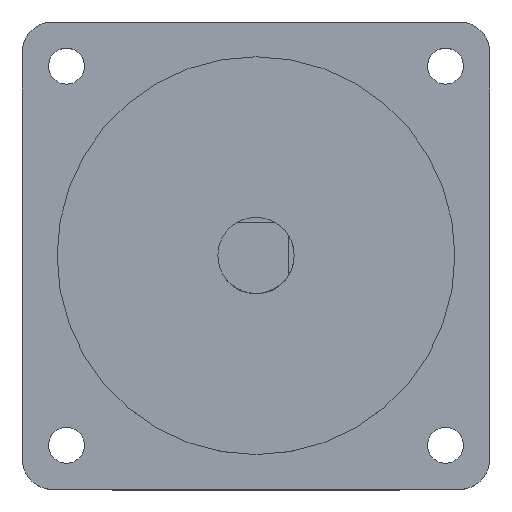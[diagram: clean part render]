
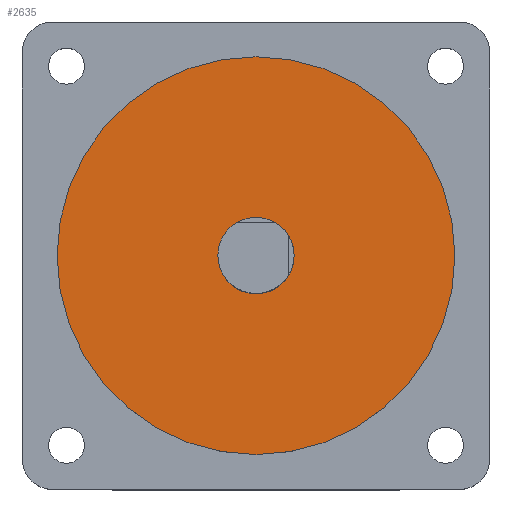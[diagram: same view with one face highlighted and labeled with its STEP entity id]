
A CAD part, top view. The second image highlights one B-rep face of the part: STEP entity #2635.
In plain terms, the highlighted planar face has unit normal (0, 0, 1).
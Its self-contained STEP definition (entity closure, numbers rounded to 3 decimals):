
#34 = ORIENTED_EDGE ( 'NONE', *, *, #569, .T. ) ;
#131 = CARTESIAN_POINT ( 'NONE',  ( 36.513, 0., 2. ) ) ;
#152 = AXIS2_PLACEMENT_3D ( 'NONE', #2180, #2168, #1937 ) ;
#178 = AXIS2_PLACEMENT_3D ( 'NONE', #3036, #1201, #3343 ) ;
#282 = FACE_OUTER_BOUND ( 'NONE', #1306, .T. ) ;
#472 = AXIS2_PLACEMENT_3D ( 'NONE', #1284, #3430, #1598 ) ;
#569 = EDGE_CURVE ( 'NONE', #984, #2421, #943, .T. ) ;
#610 = AXIS2_PLACEMENT_3D ( 'NONE', #1242, #3387, #1550 ) ;
#943 = CIRCLE ( 'NONE', #152, 36.513 ) ;
#984 = VERTEX_POINT ( 'NONE', #1805 ) ;
#1113 = FACE_BOUND ( 'NONE', #3241, .T. ) ;
#1201 = DIRECTION ( 'NONE',  ( 0., 0., -1. ) ) ;
#1242 = CARTESIAN_POINT ( 'NONE',  ( 0., 0., 2. ) ) ;
#1268 = ORIENTED_EDGE ( 'NONE', *, *, #2813, .T. ) ;
#1284 = CARTESIAN_POINT ( 'NONE',  ( 0., 0., 2. ) ) ;
#1306 = EDGE_LOOP ( 'NONE', ( #34, #1268 ) ) ;
#1479 = CIRCLE ( 'NONE', #178, 7. ) ;
#1527 = PLANE ( 'NONE',  #3852 ) ;
#1550 = DIRECTION ( 'NONE',  ( 1., 0., 0. ) ) ;
#1598 = DIRECTION ( 'NONE',  ( 1., 0., 0. ) ) ;
#1805 = CARTESIAN_POINT ( 'NONE',  ( -36.513, 0., 2. ) ) ;
#1833 = DIRECTION ( 'NONE',  ( 0., 0., 1. ) ) ;
#1914 = CIRCLE ( 'NONE', #610, 7. ) ;
#1937 = DIRECTION ( 'NONE',  ( 1., 0., 0. ) ) ;
#2146 = CIRCLE ( 'NONE', #472, 36.513 ) ;
#2168 = DIRECTION ( 'NONE',  ( 0., 0., 1. ) ) ;
#2180 = CARTESIAN_POINT ( 'NONE',  ( 0., 0., 2. ) ) ;
#2269 = ORIENTED_EDGE ( 'NONE', *, *, #3045, .T. ) ;
#2421 = VERTEX_POINT ( 'NONE', #131 ) ;
#2435 = CARTESIAN_POINT ( 'NONE',  ( 0., 0., 2. ) ) ;
#2635 = ADVANCED_FACE ( 'NONE', ( #282, #1113 ), #1527, .T. ) ;
#2813 = EDGE_CURVE ( 'NONE', #2421, #984, #2146, .T. ) ;
#2929 = EDGE_CURVE ( 'NONE', #3018, #3712, #1479, .T. ) ;
#2988 = ORIENTED_EDGE ( 'NONE', *, *, #2929, .T. ) ;
#3018 = VERTEX_POINT ( 'NONE', #3371 ) ;
#3036 = CARTESIAN_POINT ( 'NONE',  ( 0., 0., 2. ) ) ;
#3045 = EDGE_CURVE ( 'NONE', #3712, #3018, #1914, .T. ) ;
#3241 = EDGE_LOOP ( 'NONE', ( #2269, #2988 ) ) ;
#3343 = DIRECTION ( 'NONE',  ( 1., 0., 0. ) ) ;
#3371 = CARTESIAN_POINT ( 'NONE',  ( 7., 0., 2. ) ) ;
#3387 = DIRECTION ( 'NONE',  ( 0., 0., -1. ) ) ;
#3430 = DIRECTION ( 'NONE',  ( 0., 0., 1. ) ) ;
#3712 = VERTEX_POINT ( 'NONE', #3906 ) ;
#3852 = AXIS2_PLACEMENT_3D ( 'NONE', #2435, #1833, #3972 ) ;
#3906 = CARTESIAN_POINT ( 'NONE',  ( -7., 0., 2. ) ) ;
#3972 = DIRECTION ( 'NONE',  ( 1., 0., 0. ) ) ;
